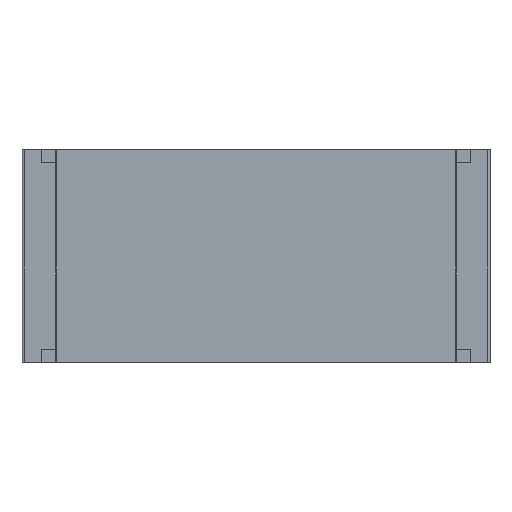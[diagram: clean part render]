
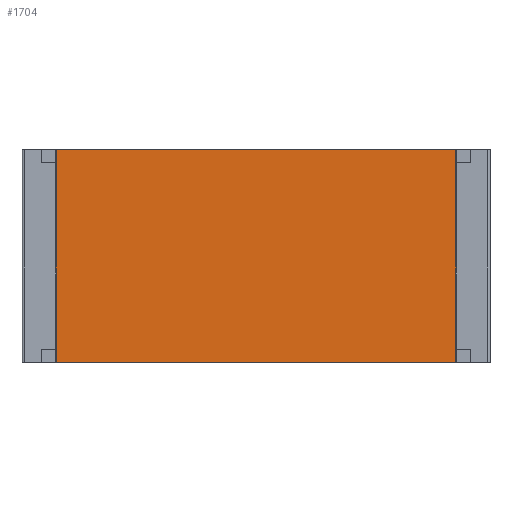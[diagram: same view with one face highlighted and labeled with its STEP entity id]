
A CAD part, top view. The second image highlights one B-rep face of the part: STEP entity #1704.
In plain terms, the highlighted planar face has unit normal (0, 0, 1).
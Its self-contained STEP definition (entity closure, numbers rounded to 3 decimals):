
#189=ORIENTED_EDGE('',*,*,#542,.F.);
#190=ORIENTED_EDGE('',*,*,#512,.T.);
#191=ORIENTED_EDGE('',*,*,#543,.T.);
#192=ORIENTED_EDGE('',*,*,#472,.T.);
#472=EDGE_CURVE('',#655,#654,#768,.T.);
#512=EDGE_CURVE('',#691,#690,#800,.T.);
#542=EDGE_CURVE('',#691,#654,#826,.T.);
#543=EDGE_CURVE('',#690,#655,#827,.T.);
#654=VERTEX_POINT('',#2283);
#655=VERTEX_POINT('',#2285);
#690=VERTEX_POINT('',#2363);
#691=VERTEX_POINT('',#2365);
#768=LINE('',#2284,#920);
#800=LINE('',#2364,#952);
#826=LINE('',#2420,#978);
#827=LINE('',#2421,#979);
#920=VECTOR('',#1913,1000.);
#952=VECTOR('',#1969,1000.);
#978=VECTOR('',#2015,1000.);
#979=VECTOR('',#2016,1000.);
#1058=EDGE_LOOP('',(#189,#190,#191,#192));
#1124=FACE_BOUND('',#1058,.T.);
#1190=PLANE('',#1795);
#1704=ADVANCED_FACE('',(#1124),#1190,.T.);
#1795=AXIS2_PLACEMENT_3D('',#2419,#2013,#2014);
#1913=DIRECTION('',(-1.,0.,0.));
#1969=DIRECTION('',(1.,0.,0.));
#2013=DIRECTION('',(0.,0.,1.));
#2014=DIRECTION('',(1.,0.,0.));
#2015=DIRECTION('',(0.,1.,0.));
#2016=DIRECTION('',(0.,1.,0.));
#2283=CARTESIAN_POINT('',(-4.695,2.5,0.));
#2284=CARTESIAN_POINT('',(5.5,2.5,0.));
#2285=CARTESIAN_POINT('',(4.695,2.5,0.));
#2363=CARTESIAN_POINT('',(4.695,-2.5,0.));
#2364=CARTESIAN_POINT('',(-5.5,-2.5,0.));
#2365=CARTESIAN_POINT('',(-4.695,-2.5,0.));
#2419=CARTESIAN_POINT('',(0.,0.,0.));
#2420=CARTESIAN_POINT('',(-4.695,0.,0.));
#2421=CARTESIAN_POINT('',(4.695,0.,0.));
